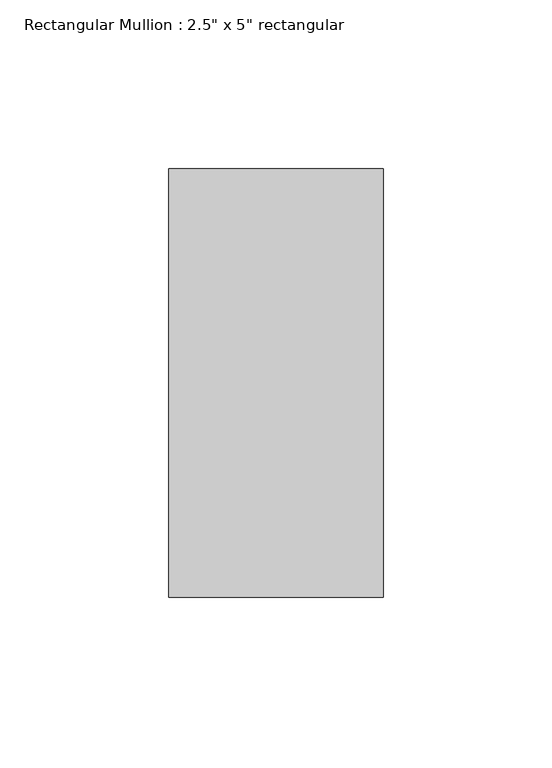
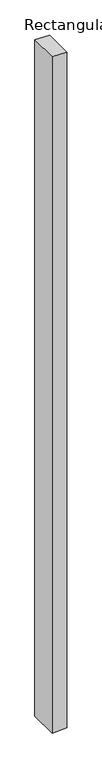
"""IFC4 building model written with IfcOpenShell, lengths in millimetres: member geometry."""

import ifcopenshell
import ifcopenshell.guid

model = None  # the IFC model being written
_history = None  # IfcOwnerHistory: only IFC2X3 demands one
_inside = {}  # id of a spatial element -> (the spatial element, [elements in it])
_under = {}  # id of a project, library or spatial element -> (it, [spatial elements below it])
_declared = {}  # id of a project -> (the project, [libraries it declares])
_typed = {}  # id of a type object -> (the type object, [elements of that type])
_made_of = {}  # id of a material, layer set ... -> (it, [elements and type objects made of it])


def new_model(schema):
    """Start an empty IFC model of exactly this schema.

    Asked for "IFC4X3", IfcOpenShell would pick the latest addendum, in which some entities
    have other attributes; the version numbers below select the first issue.
    IFC2X3 requires an IfcOwnerHistory on every rooted entity: one is made here for all.
    """
    global model, _history
    if schema == "IFC4X3":
        model = ifcopenshell.file(schema_version=(4, 3, 0, 0))
    else:
        model = ifcopenshell.file(schema=schema)
    _inside.clear()
    _under.clear()
    _declared.clear()
    _typed.clear()
    _made_of.clear()
    _history = None
    if model.schema == "IFC2X3":
        org = make("IfcOrganization", Name="unknown")
        user = make(
            "IfcPersonAndOrganization",
            ThePerson=make("IfcPerson", FamilyName="unknown"),
            TheOrganization=org,
        )
        app = make(
            "IfcApplication",
            ApplicationDeveloper=org,
            Version="unknown",
            ApplicationFullName="unknown",
            ApplicationIdentifier="unknown",
        )
        _history = make(
            "IfcOwnerHistory",
            OwningUser=user,
            OwningApplication=app,
            ChangeAction="ADDED",
            CreationDate=0,
        )
    return model


def make(cls, **values):
    """One entity of the class cls with the attributes given. An attribute that is None is left unset."""
    return model.create_entity(
        cls, **{name: value for name, value in values.items() if value is not None}
    )


def rooted(cls, **values):
    """An entity with a GlobalId (a new one), such as an element, a storey or a relation."""
    return make(cls, GlobalId=ifcopenshell.guid.new(), OwnerHistory=_history, **values)


def si_unit(unit_type, name, prefix=None):
    """IfcSIUnit, for example si_unit("LENGTHUNIT", "METRE", prefix="MILLI")."""
    return make("IfcSIUnit", UnitType=unit_type, Prefix=prefix, Name=name)


def assignment(units):
    """IfcUnitAssignment: the units of a project."""
    return None if units is None else make("IfcUnitAssignment", Units=units)


def point(xyz):
    """IfcCartesianPoint."""
    return None if xyz is None else make("IfcCartesianPoint", Coordinates=xyz)


def direction(xyz):
    """IfcDirection."""
    return None if xyz is None else make("IfcDirection", DirectionRatios=xyz)


def frame(location, z_axis=None, x_axis=None):
    """IfcAxis2Placement3D, a coordinate frame: its origin and axes. An axis left out is left unset."""
    return make(
        "IfcAxis2Placement3D",
        Location=point(location),
        Axis=direction(z_axis),
        RefDirection=direction(x_axis),
    )


def origin():
    """The frame at (0, 0, 0) with its axes left unset."""
    return frame((0.0, 0.0, 0.0))


def place(relative_to, where):
    """IfcLocalPlacement: puts the frame where relative to a parent placement (None: the world)."""
    return make(
        "IfcLocalPlacement", PlacementRelTo=relative_to, RelativePlacement=where
    )


def context(
    kind, dimensions, precision=None, world=None, true_north=None, identifier=None
):
    """IfcGeometricRepresentationContext, for example the 3D "Model" context."""
    return make(
        "IfcGeometricRepresentationContext",
        ContextIdentifier=identifier,
        ContextType=kind,
        CoordinateSpaceDimension=dimensions,
        Precision=precision,
        WorldCoordinateSystem=world,
        TrueNorth=true_north,
    )


def project(units=None, contexts=None):
    """IfcProject with its units and contexts."""
    return rooted(
        "IfcProject",
        Name="project",
        RepresentationContexts=contexts,
        UnitsInContext=assignment(units),
    )


def spatial(cls, under=None, at=None, **own):
    """A site, building, storey or space (cls), placed at a placement, below another one or the project."""
    s = rooted(cls, ObjectPlacement=at, **own)
    if under is not None:
        _under.setdefault(under.id(), (under, []))[1].append(s)
    return s


def polyline(points):
    """IfcPolyline through the points."""
    return make("IfcPolyline", Points=[point(p) for p in points])


def outline(outer, holes=None, kind="AREA"):
    """IfcArbitraryClosedProfileDef: a profile drawn as a closed curve; with holes, ...WithVoids."""
    if holes is None:
        return make("IfcArbitraryClosedProfileDef", ProfileType=kind, OuterCurve=outer)
    return make(
        "IfcArbitraryProfileDefWithVoids",
        ProfileType=kind,
        OuterCurve=outer,
        InnerCurves=holes,
    )


def extrude(swept, where, along, depth):
    """IfcExtrudedAreaSolid: the profile swept, set in the frame where, extruded along a direction by depth."""
    return make(
        "IfcExtrudedAreaSolid",
        SweptArea=swept,
        Position=where,
        ExtrudedDirection=direction(along),
        Depth=depth,
    )


def shape(context_of_items, identifier, shape_type, items):
    """IfcShapeRepresentation: the items that make up one representation, for example the "Body"."""
    return make(
        "IfcShapeRepresentation",
        ContextOfItems=context_of_items,
        RepresentationIdentifier=identifier,
        RepresentationType=shape_type,
        Items=items,
    )


def source(mapping_origin, context_of_items, identifier, shape_type, items):
    """IfcRepresentationMap: a shape defined once, which mapped items show again and again."""
    return make(
        "IfcRepresentationMap",
        MappingOrigin=mapping_origin,
        MappedRepresentation=shape(context_of_items, identifier, shape_type, items),
    )


def transform(
    local_origin,
    x_axis=None,
    y_axis=None,
    z_axis=None,
    scale=None,
    scale2=None,
    scale3=None,
    uniform=True,
):
    """IfcCartesianTransformationOperator3D, or its non-uniform kind. x_axis, y_axis, z_axis: its Axis1, 2, 3."""
    if uniform:
        return make(
            "IfcCartesianTransformationOperator3D",
            Axis1=direction(x_axis),
            Axis2=direction(y_axis),
            LocalOrigin=point(local_origin),
            Scale=scale,
            Axis3=direction(z_axis),
        )
    return make(
        "IfcCartesianTransformationOperator3DnonUniform",
        Axis1=direction(x_axis),
        Axis2=direction(y_axis),
        LocalOrigin=point(local_origin),
        Scale=scale,
        Axis3=direction(z_axis),
        Scale2=scale2,
        Scale3=scale3,
    )


def mapped(mapping_source, mapping_target):
    """IfcMappedItem: shows the shape of a source again, moved by a transform."""
    return make(
        "IfcMappedItem", MappingSource=mapping_source, MappingTarget=mapping_target
    )


def made_of(thing, what):
    """Note that an element or type object is made of a material, layer set ...; save() writes the relation."""
    if what is not None:
        _made_of.setdefault(what.id(), (what, []))[1].append(thing)
    return thing


def element(
    cls,
    number,
    at=None,
    inside=None,
    cuts=None,
    type_object=None,
    material=None,
    context=None,
    identifier="Body",
    shape_type=None,
    held_by="IfcProductDefinitionShape",
    body=None,
    shapes=None,
    **own,
):
    """One element of the class cls, such as IfcWall. Its Tag is "e" and its number.

    at: its placement. inside: the storey or other place that contains it. cuts: it is an
    opening in that element (IfcRelVoidsElement). A single representation is given by context,
    identifier, shape_type and body (its items); several are given by shapes. held_by: the class
    of the entity that holds the representations. save() writes the other relations.
    """
    e = rooted(cls, Tag="e%d" % number, ObjectPlacement=at, **own)
    if body is not None:
        shapes = [shape(context, identifier, shape_type, body)]
    if shapes is not None:
        e.Representation = make(held_by, Representations=shapes)
    if inside is not None:
        _inside.setdefault(inside.id(), (inside, []))[1].append(e)
    if cuts is not None:
        rooted(
            "IfcRelVoidsElement", RelatingBuildingElement=cuts, RelatedOpeningElement=e
        )
    if type_object is not None:
        _typed.setdefault(type_object.id(), (type_object, []))[1].append(e)
    return made_of(e, material)


def aggregate(whole, parts):
    """IfcRelAggregates: a whole, such as a stair, and the parts it consists of."""
    return rooted("IfcRelAggregates", RelatingObject=whole, RelatedObjects=parts)


def save(model, path):
    """Write the relations noted so far, then the file.

    IfcRelAggregates (storeys below a building ...), IfcRelContainedInSpatialStructure (elements
    in a storey), IfcRelDefinesByType, IfcRelAssociatesMaterial and IfcRelDeclares: one each for
    every whole, place, type object, material and project.
    """
    for whole, parts in _under.values():
        aggregate(whole, parts)
    for where, things in _inside.values():
        rooted(
            "IfcRelContainedInSpatialStructure",
            RelatedElements=things,
            RelatingStructure=where,
        )
    for kind, things in _typed.values():
        rooted("IfcRelDefinesByType", RelatedObjects=things, RelatingType=kind)
    for what, things in _made_of.values():
        rooted("IfcRelAssociatesMaterial", RelatedObjects=things, RelatingMaterial=what)
    for by, libraries in _declared.values():
        rooted("IfcRelDeclares", RelatingContext=by, RelatedDefinitions=libraries)
    model.write(path)


def member_687d04d0(model_context):
    return source(origin(), model_context, "Body", "SweptSolid", [
        extrude(outline(polyline([(0.0, 0.0), (1.3793254, -63.5), (-3054.218946, -63.5), (-3052.95405, 0.0), (0.0, 0.0)])), frame((0.0, -63.5, 0.0), z_axis=(0.0, 1.0, 0.0), x_axis=(0.0, 0.0, 1.0)), (0.0, 0.0, 1.0), 127.0),
    ])


if __name__ == "__main__":
    model = new_model("IFC4")
    model_context = context("Model", 3, world=origin())
    ifc_project = project(units=[si_unit("LENGTHUNIT", "METRE", prefix="MILLI")], contexts=[model_context])
    site = spatial("IfcSite", under=ifc_project)
    building = spatial("IfcBuilding", under=site)
    placement = place(None, origin())
    member_shape = member_687d04d0(model_context)
    element("IfcMember", 1, ObjectType="Rectangular Mullion : 2.5\" x 5\" rectangular", at=placement, inside=building, context=model_context, shape_type="MappedRepresentation", body=[
        mapped(member_shape, transform((0.0, 0.0, 0.0), x_axis=(1.0, 0.0, 0.0), y_axis=(0.0, 1.0, 0.0), z_axis=(0.0, 0.0, 1.0))),
    ])
    save(model, "model.ifc")
